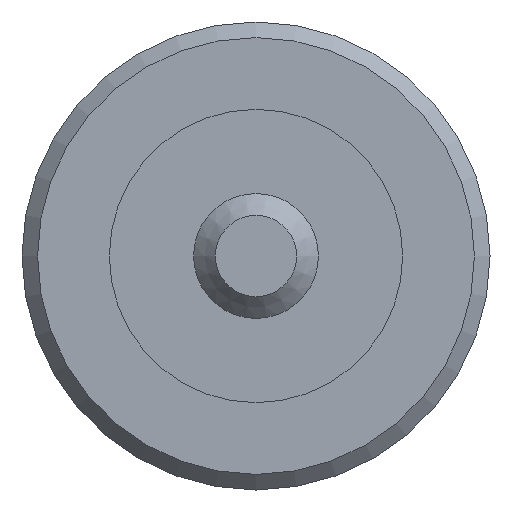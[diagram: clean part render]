
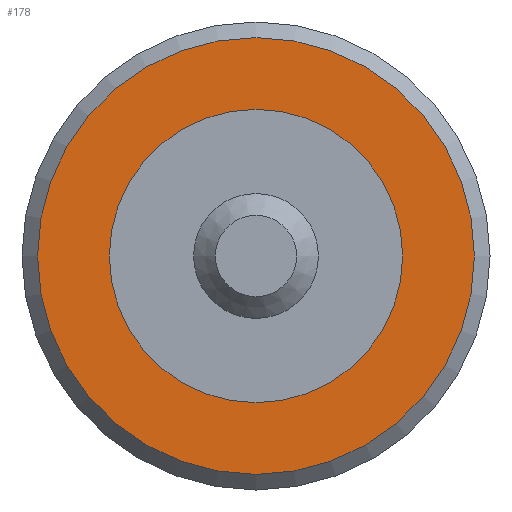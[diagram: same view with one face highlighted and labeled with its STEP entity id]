
A CAD part, left-side view. The second image highlights one B-rep face of the part: STEP entity #178.
In plain terms, the highlighted planar face has unit normal (-1, 0, 0).
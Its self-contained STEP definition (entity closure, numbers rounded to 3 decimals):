
#16=PLANE($,#205);
#31=FACE_BOUND($,#66,.T.);
#32=FACE_BOUND($,#67,.T.);
#66=EDGE_LOOP($,(#136));
#67=EDGE_LOOP($,(#137));
#85=CIRCLE($,#201,1.194);
#87=CIRCLE($,#206,1.778);
#99=VERTEX_POINT($,#298);
#101=VERTEX_POINT($,#305);
#113=EDGE_CURVE($,#99,#99,#85,.T.);
#115=EDGE_CURVE($,#101,#101,#87,.T.);
#136=ORIENTED_EDGE($,*,*,#113,.T.);
#137=ORIENTED_EDGE($,*,*,#115,.F.);
#178=ADVANCED_FACE($,(#31,#32),#16,.T.);
#201=AXIS2_PLACEMENT_3D($,#299,#246,#247);
#205=AXIS2_PLACEMENT_3D($,#304,#254,#255);
#206=AXIS2_PLACEMENT_3D($,#306,#256,#257);
#246=DIRECTION('center_axis',(1.,0.,0.));
#247=DIRECTION('ref_axis',(0.,1.,0.));
#254=DIRECTION('center_axis',(-1.,0.,0.));
#255=DIRECTION('ref_axis',(0.,0.,1.));
#256=DIRECTION('center_axis',(1.,0.,0.));
#257=DIRECTION('ref_axis',(0.,-1.,0.));
#298=CARTESIAN_POINT('',(-7.036,2.384,0.));
#299=CARTESIAN_POINT('Origin',(-7.036,1.19,0.));
#304=CARTESIAN_POINT('Origin',(-7.036,2.142,0.));
#305=CARTESIAN_POINT('',(-7.036,2.968,0.));
#306=CARTESIAN_POINT('Origin',(-7.036,1.19,0.));
